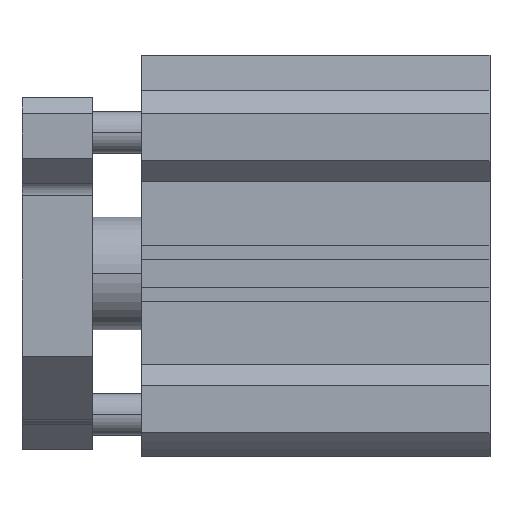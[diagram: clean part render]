
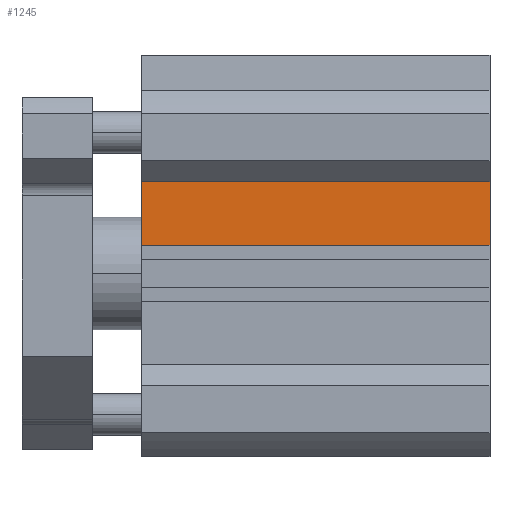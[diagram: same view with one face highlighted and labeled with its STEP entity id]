
A CAD part, top view. The second image highlights one B-rep face of the part: STEP entity #1245.
In plain terms, the highlighted planar face has unit normal (0, 0, 1).
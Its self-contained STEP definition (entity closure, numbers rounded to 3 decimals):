
#76 = DIRECTION ( 'NONE',  ( -1., 0., 0. ) ) ;
#159 = CARTESIAN_POINT ( 'NONE',  ( 0., 4., 23. ) ) ;
#211 = VERTEX_POINT ( 'NONE', #3016 ) ;
#474 = DIRECTION ( 'NONE',  ( 0., -1., 0. ) ) ;
#570 = DIRECTION ( 'NONE',  ( -1., 0., 0. ) ) ;
#614 = VERTEX_POINT ( 'NONE', #3394 ) ;
#755 = VECTOR ( 'NONE', #1745, 1000. ) ;
#786 = ORIENTED_EDGE ( 'NONE', *, *, #919, .F. ) ;
#806 = CARTESIAN_POINT ( 'NONE',  ( 49.5, 4., 23. ) ) ;
#919 = EDGE_CURVE ( 'NONE', #614, #4158, #3224, .T. ) ;
#947 = DIRECTION ( 'NONE',  ( 0., 0., -1. ) ) ;
#1157 = LINE ( 'NONE', #2423, #1162 ) ;
#1162 = VECTOR ( 'NONE', #4002, 1000. ) ;
#1245 = ADVANCED_FACE ( 'NONE', ( #2103 ), #3693, .F. ) ;
#1276 = CARTESIAN_POINT ( 'NONE',  ( 49.5, 13., 23. ) ) ;
#1294 = CARTESIAN_POINT ( 'NONE',  ( 49.5, 13., 23. ) ) ;
#1375 = LINE ( 'NONE', #1294, #4304 ) ;
#1538 = VECTOR ( 'NONE', #76, 1000. ) ;
#1745 = DIRECTION ( 'NONE',  ( 0., -1., 0. ) ) ;
#1776 = CARTESIAN_POINT ( 'NONE',  ( 0., 13., 23. ) ) ;
#2004 = AXIS2_PLACEMENT_3D ( 'NONE', #1276, #947, #474 ) ;
#2028 = ORIENTED_EDGE ( 'NONE', *, *, #3806, .F. ) ;
#2084 = ORIENTED_EDGE ( 'NONE', *, *, #3916, .T. ) ;
#2103 = FACE_OUTER_BOUND ( 'NONE', #2858, .T. ) ;
#2294 = VERTEX_POINT ( 'NONE', #1776 ) ;
#2423 = CARTESIAN_POINT ( 'NONE',  ( 49.5, 13., 23. ) ) ;
#2858 = EDGE_LOOP ( 'NONE', ( #2920, #786, #2028, #2084 ) ) ;
#2920 = ORIENTED_EDGE ( 'NONE', *, *, #4212, .T. ) ;
#3016 = CARTESIAN_POINT ( 'NONE',  ( 49.5, 13., 23. ) ) ;
#3224 = LINE ( 'NONE', #806, #1538 ) ;
#3394 = CARTESIAN_POINT ( 'NONE',  ( 49.5, 4., 23. ) ) ;
#3607 = LINE ( 'NONE', #4110, #755 ) ;
#3693 = PLANE ( 'NONE',  #2004 ) ;
#3806 = EDGE_CURVE ( 'NONE', #211, #614, #1157, .T. ) ;
#3916 = EDGE_CURVE ( 'NONE', #211, #2294, #1375, .T. ) ;
#4002 = DIRECTION ( 'NONE',  ( 0., -1., 0. ) ) ;
#4110 = CARTESIAN_POINT ( 'NONE',  ( 0., 13., 23. ) ) ;
#4158 = VERTEX_POINT ( 'NONE', #159 ) ;
#4212 = EDGE_CURVE ( 'NONE', #2294, #4158, #3607, .T. ) ;
#4304 = VECTOR ( 'NONE', #570, 1000. ) ;
